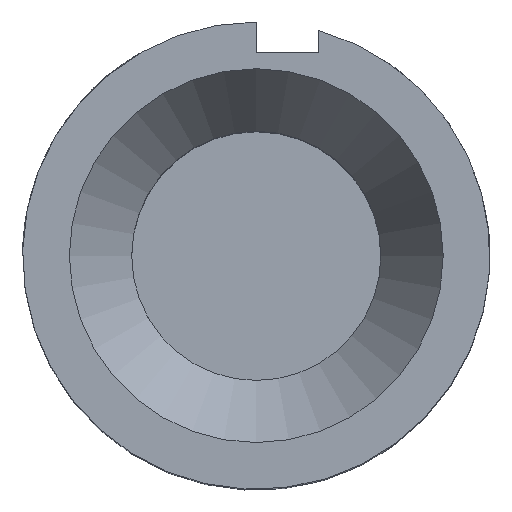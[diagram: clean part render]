
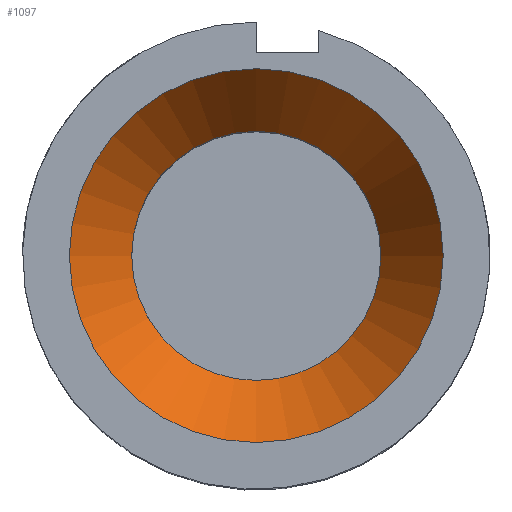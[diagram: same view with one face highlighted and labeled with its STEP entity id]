
A CAD part, top view. The second image highlights one B-rep face of the part: STEP entity #1097.
In plain terms, the highlighted free-form (B-spline) face has degree [3, 1] with [7, 2] control points.
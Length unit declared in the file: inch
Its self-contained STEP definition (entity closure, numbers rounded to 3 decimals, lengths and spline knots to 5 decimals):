
#438=CARTESIAN_POINT('',(0.5,0.0,1.625));
#439=VERTEX_POINT('',#438);
#440=CARTESIAN_POINT('',(0.,0.,1.625));
#441=DIRECTION('',(0.0,0.0,1.0));
#442=DIRECTION('',(1.0,0.0,0.0));
#443=AXIS2_PLACEMENT_3D('',#440,#441,#442);
#444=CIRCLE('',#443,0.5);
#445=EDGE_CURVE('',#439,#439,#444,.T.);
#838=CARTESIAN_POINT('',(0.75,0.,2.));
#839=VERTEX_POINT('',#838);
#840=CARTESIAN_POINT('',(0.,0.,2.0));
#841=DIRECTION('',(0.0,0.0,1.0));
#842=DIRECTION('',(1.0,0.0,0.0));
#843=AXIS2_PLACEMENT_3D('',#840,#841,#842);
#844=CIRCLE('',#843,0.75);
#845=EDGE_CURVE('',#839,#839,#844,.T.);
#1069=CARTESIAN_POINT('',(-0.75,0.,2.0));
#1070=CARTESIAN_POINT('',(-0.75,-1.5,2.));
#1071=CARTESIAN_POINT('',(0.75,-1.5,2.));
#1072=CARTESIAN_POINT('',(0.75,0.,2.0));
#1073=CARTESIAN_POINT('',(0.75,1.5,2.));
#1074=CARTESIAN_POINT('',(-0.75,1.5,2.));
#1075=CARTESIAN_POINT('',(-0.75,0.,2.0));
#1076=CARTESIAN_POINT('',(-0.5,0.,1.625));
#1077=CARTESIAN_POINT('',(-0.5,-1.,1.625));
#1078=CARTESIAN_POINT('',(0.5,-1.,1.625));
#1079=CARTESIAN_POINT('',(0.5,0.,1.625));
#1080=CARTESIAN_POINT('',(0.5,1.,1.625));
#1081=CARTESIAN_POINT('',(-0.5,1.,1.625));
#1082=CARTESIAN_POINT('',(-0.5,0.,1.625));
#1090=(BOUNDED_SURFACE()B_SPLINE_SURFACE(3,1,((#1069,#1076),(#1070,#1077),(#1071,#1078),(#1072,#1079),(#1073,#1080),(#1074,#1081),(#1075,#1082)),.UNSPECIFIED.,.T.,.F.,.U.)B_SPLINE_SURFACE_WITH_KNOTS((4,3,4),(2,2),(0.0,0.5,1.0),(0.,1.),.UNSPECIFIED.)GEOMETRIC_REPRESENTATION_ITEM()RATIONAL_B_SPLINE_SURFACE(((1.0,1.0),(0.333,0.333),(0.333,0.333),(1.0,1.0),(0.333,0.333),(0.333,0.333),(1.0,1.0)))REPRESENTATION_ITEM('')SURFACE());
#1091=ORIENTED_EDGE('',*,*,#845,.T.);
#1092=EDGE_LOOP('',(#1091));
#1093=FACE_BOUND('',#1092,.T.);
#1094=ORIENTED_EDGE('',*,*,#445,.F.);
#1095=EDGE_LOOP('',(#1094));
#1096=FACE_BOUND('',#1095,.T.);
#1097=ADVANCED_FACE('',(#1093,#1096),#1090,.F.);
